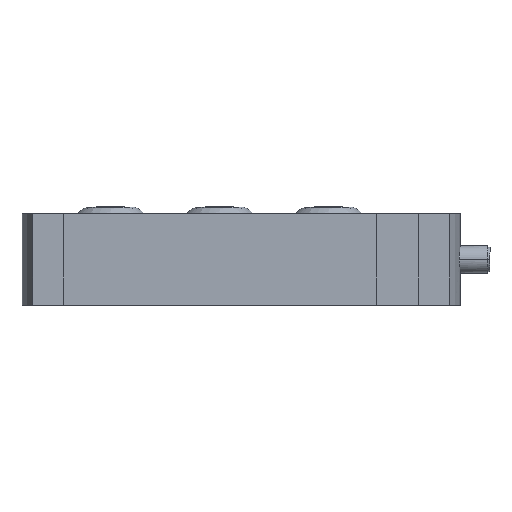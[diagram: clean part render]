
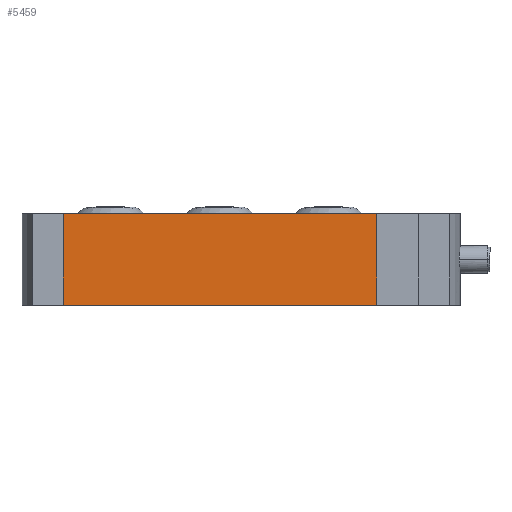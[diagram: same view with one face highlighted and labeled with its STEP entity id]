
A CAD part, left-side view. The second image highlights one B-rep face of the part: STEP entity #5459.
In plain terms, the highlighted planar face has unit normal (-1, 0, 0) as drawn and (0, 0, 1) by its records, which use the part's own axes.
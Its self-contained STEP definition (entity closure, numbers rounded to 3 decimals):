
#23 = VECTOR ( 'NONE', #2541, 1000. ) ;
#133 = DIRECTION ( 'NONE',  ( 1., 0., 0. ) ) ;
#361 = EDGE_CURVE ( 'NONE', #1076, #2674, #2136, .T. ) ;
#842 = CARTESIAN_POINT ( 'NONE',  ( 68.35, 40., 20. ) ) ;
#867 = EDGE_CURVE ( 'NONE', #2480, #2674, #3619, .T. ) ;
#1076 = VERTEX_POINT ( 'NONE', #2469 ) ;
#1214 = ORIENTED_EDGE ( 'NONE', *, *, #361, .F. ) ;
#1301 = CARTESIAN_POINT ( 'NONE',  ( -68.35, 0., 20. ) ) ;
#1610 = EDGE_CURVE ( 'NONE', #2688, #2480, #1721, .T. ) ;
#1720 = DIRECTION ( 'NONE',  ( 0., -1., 0. ) ) ;
#1721 = LINE ( 'NONE', #2655, #23 ) ;
#2136 = LINE ( 'NONE', #842, #2354 ) ;
#2211 = LINE ( 'NONE', #4439, #3740 ) ;
#2354 = VECTOR ( 'NONE', #1720, 1000. ) ;
#2388 = EDGE_CURVE ( 'NONE', #2688, #1076, #2211, .T. ) ;
#2440 = ORIENTED_EDGE ( 'NONE', *, *, #867, .T. ) ;
#2469 = CARTESIAN_POINT ( 'NONE',  ( 68.35, 40., 20. ) ) ;
#2480 = VERTEX_POINT ( 'NONE', #1301 ) ;
#2541 = DIRECTION ( 'NONE',  ( 0., -1., 0. ) ) ;
#2546 = ORIENTED_EDGE ( 'NONE', *, *, #1610, .T. ) ;
#2572 = DIRECTION ( 'NONE',  ( 0., 0., -1. ) ) ;
#2655 = CARTESIAN_POINT ( 'NONE',  ( -68.35, 40., 20. ) ) ;
#2674 = VERTEX_POINT ( 'NONE', #2807 ) ;
#2688 = VERTEX_POINT ( 'NONE', #4535 ) ;
#2807 = CARTESIAN_POINT ( 'NONE',  ( 68.35, 0., 20. ) ) ;
#3005 = CARTESIAN_POINT ( 'NONE',  ( -68.35, 40., 20. ) ) ;
#3167 = DIRECTION ( 'NONE',  ( 1., 0., 0. ) ) ;
#3171 = AXIS2_PLACEMENT_3D ( 'NONE', #3005, #2572, #5587 ) ;
#3282 = VECTOR ( 'NONE', #3167, 1000. ) ;
#3619 = LINE ( 'NONE', #5295, #3282 ) ;
#3740 = VECTOR ( 'NONE', #133, 1000. ) ;
#3849 = FACE_OUTER_BOUND ( 'NONE', #4133, .T. ) ;
#4133 = EDGE_LOOP ( 'NONE', ( #2440, #1214, #4658, #2546 ) ) ;
#4439 = CARTESIAN_POINT ( 'NONE',  ( -68.35, 40., 20. ) ) ;
#4535 = CARTESIAN_POINT ( 'NONE',  ( -68.35, 40., 20. ) ) ;
#4658 = ORIENTED_EDGE ( 'NONE', *, *, #2388, .F. ) ;
#4799 = PLANE ( 'NONE',  #3171 ) ;
#5295 = CARTESIAN_POINT ( 'NONE',  ( -68.35, 0., 20. ) ) ;
#5459 = ADVANCED_FACE ( 'NONE', ( #3849 ), #4799, .F. ) ;
#5587 = DIRECTION ( 'NONE',  ( -1., 0., 0. ) ) ;
